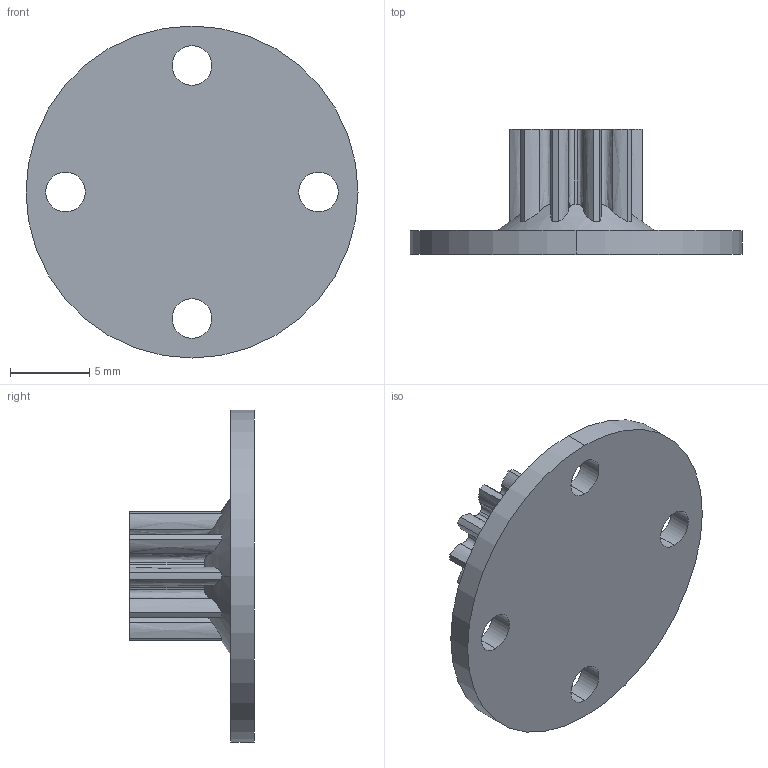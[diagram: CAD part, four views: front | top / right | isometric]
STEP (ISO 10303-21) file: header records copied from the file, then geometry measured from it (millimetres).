
FILE_DESCRIPTION (( 'STEP AP214' ), '1' );
FILE_NAME ('输入轴.STEP', '2026-02-02T11:08:05', ( 'JQW' ), ( '' ), 'SwSTEP 2.0', 'SolidWorks 2024', '' );
FILE_SCHEMA (( 'AUTOMOTIVE_DESIGN' ));
Length unit declared in the file: millimetre
Products named in the file (1): 输入轴
Bounding box: 21 x 7.9 x 21 mm (x, y, z)
Volume: 750.6 mm3; surface area: 1037 mm2
Topology: 1 solids, 1 shells, 76 faces, 218 edges, 145 vertices
Faces by surface type: bspline 40, cylinder 31, plane 3, cone 2
Entity records: 4296 total; most frequent: CARTESIAN_POINT 2538, ORIENTED_EDGE 436, DIRECTION 237, EDGE_CURVE 218, VERTEX_POINT 145, B_SPLINE_CURVE_WITH_KNOTS 100, EDGE_LOOP 85, AXIS2_PLACEMENT_3D 82
